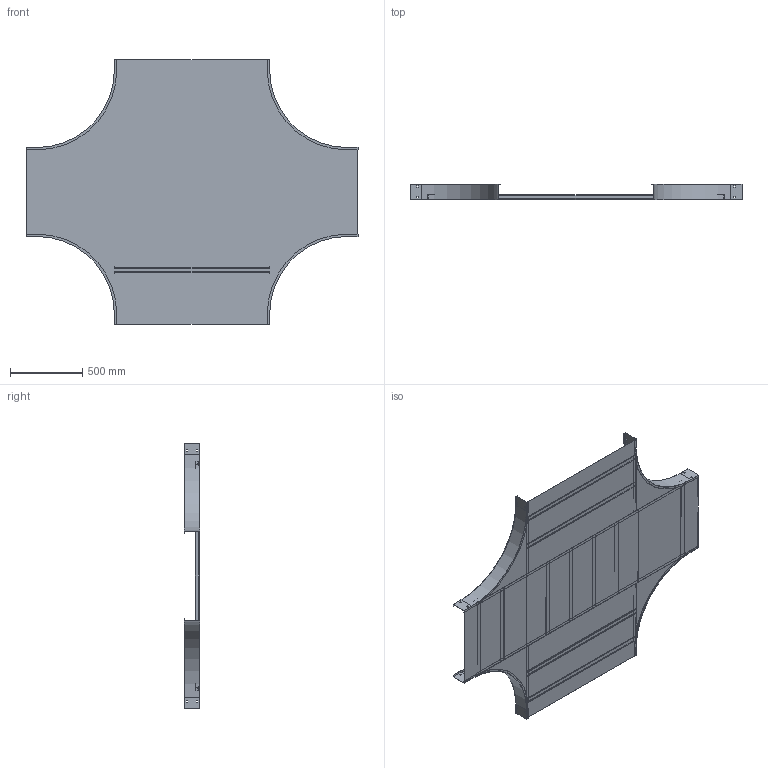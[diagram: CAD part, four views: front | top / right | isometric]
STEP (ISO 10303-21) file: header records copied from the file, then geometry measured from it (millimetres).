
FILE_DESCRIPTION((''),'2;1');
FILE_NAME('AUF42442SEX24_ASM','2010-02-01T',('erouzier'),(''),'PRO/ENGINEER BY PARAMETRIC TECHNOLOGY CORPORATION, 2008510','PRO/ENGINEER BY PARAMETRIC TECHNOLOGY CORPORATION, 2008510','');
FILE_SCHEMA(('CONFIG_CONTROL_DESIGN'));
Length unit declared in the file: inch
Products named in the file (19): CDS001319-4-90-21-I; CDS002159L24_AF9; CDS002159L24_AF10; CDS002159L24_AF11; CDS002159L24_AF12; CDS002159L24_AF13; CDS002159L24_AF14; CDS002159L24_AF15; CDS002159L24_AF17; CDS002159L24_AF16; CDS000495_GEN_AF18; CDS000495_GEN_AF19; CDS000495_GEN_AF22; CDS000495_GEN_AF23; CDS000495_GEN_AF20; CDS000495_GEN_AF21; CDS002159L42; CDS005034-24-24-42; AUF42442SEX24_ASM
Assembly tree (24 placements, depth 2):
  AUF42442SEX24_ASM
    CDS001319-4-90-21-I  x4
    CDS002159L24_AF9
    CDS002159L24_AF10
    CDS002159L24_AF11
    CDS002159L24_AF12
    CDS002159L24_AF13
    CDS002159L24_AF14
    CDS002159L24_AF15
    CDS002159L24_AF17
    CDS002159L24_AF16
    CDS000495_GEN_AF18
    CDS000495_GEN_AF19
    CDS000495_GEN_AF22
    CDS000495_GEN_AF23
    CDS000495_GEN_AF20
    CDS000495_GEN_AF21
    CDS002159L42  x4
    CDS005034-24-24-42
Bounding box: 2290.57 x 106.05 x 1833.37 mm (x, y, z)
Volume: 6528083.8 mm3; surface area: 10058558.7 mm2
Topology: 24 solids, 24 shells, 604 faces, 1668 edges, 1112 vertices
Faces by surface type: plane 441, cylinder 163
Entity records: 13526 total; most frequent: CARTESIAN_POINT 2335, DIRECTION 2274, ORIENTED_EDGE 2256, EDGE_CURVE 1128, VECTOR 892, LINE 892, VERTEX_POINT 752, AXIS2_PLACEMENT_3D 691
